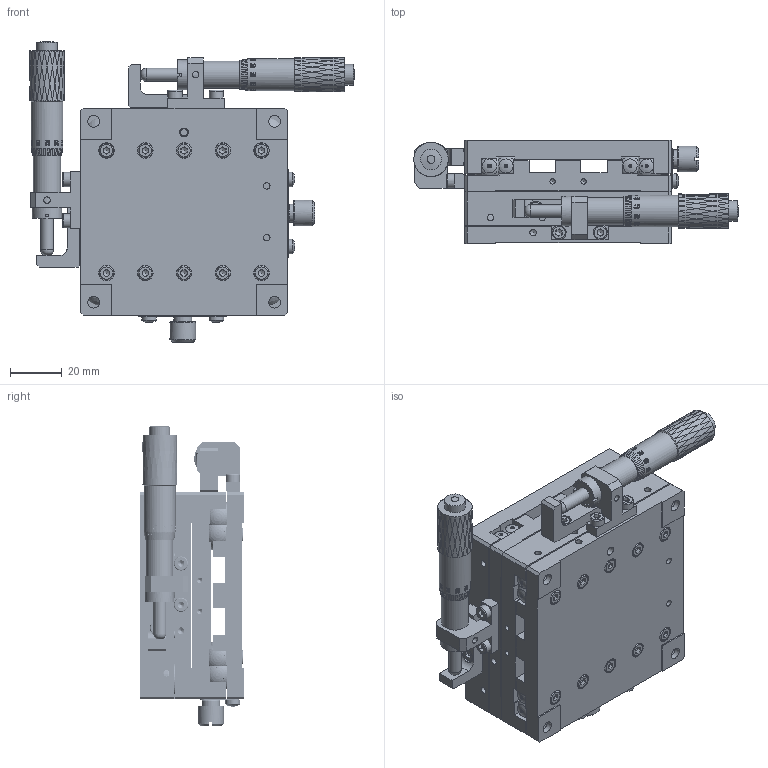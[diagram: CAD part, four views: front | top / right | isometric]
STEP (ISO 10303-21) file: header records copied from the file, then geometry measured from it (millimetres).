
FILE_DESCRIPTION (( 'STEP AP203' ), '1' );
FILE_NAME ('BPEB80.STEP', '2024-07-27T02:51:02', ( 'Windows User' ), ( 'P R C' ), 'SwSTEP 2.0', 'SolidWorks 2024', '' );
FILE_SCHEMA (( 'CONFIG_CONTROL_DESIGN' ));
Products named in the file (1): BPEB80
Bounding box: 125.45 x 40 x 116.3 mm (x, y, z)
Volume: 223220.6 mm3; surface area: 137585.3 mm2
Topology: 82 solids, 82 shells, 3816 faces, 9350 edges, 5964 vertices
Faces by surface type: plane 1424, bspline 1124, cylinder 758, cone 434, torus 70, sphere 6
Full cylindrical faces by diameter (mm): 2.05 x8, 2.5 x42, 2.55 x40, 2.95 x18, 3 x56, 3.1 x4, 3.2 x4, 3.3 x26, 3.4 x46, 4.4 x40, 4.5 x8, 5 x4, 5.5 x52, 5.6 x4, 5.8 x4, 6 x40, 7 x2, 8 x12, 8.1 x2, 9 x2, 9.5 x4, 10 x2, 10.373 x2, 11.5 x2, 12.25 x2, 13.3 x2
Entity records: 191015 total; most frequent: CARTESIAN_POINT 115955, ORIENTED_EDGE 16724, DIRECTION 11292, EDGE_CURVE 8362, VERTEX_POINT 5720, EDGE_LOOP 5122, AXIS2_PLACEMENT_3D 4383, FACE_OUTER_BOUND 4270
